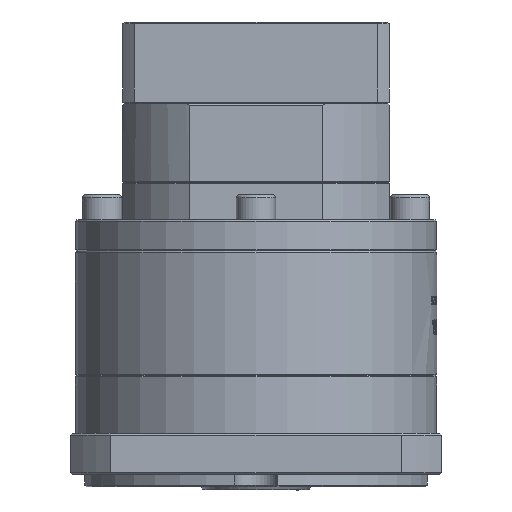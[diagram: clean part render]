
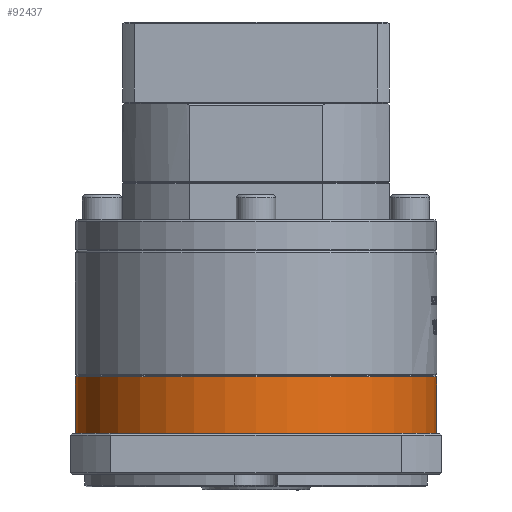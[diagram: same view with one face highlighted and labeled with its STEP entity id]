
A CAD part, front view. The second image highlights one B-rep face of the part: STEP entity #92437.
In plain terms, the highlighted cylindrical face has radius 57.5 mm (diameter 115 mm), a partial arc.
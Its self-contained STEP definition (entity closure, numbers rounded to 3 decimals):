
#3180 = DIRECTION ( 'NONE',  ( 0., 0., 1. ) ) ;
#5115 = EDGE_CURVE ( 'NONE', #85196, #7354, #52857, .T. ) ;
#7354 = VERTEX_POINT ( 'NONE', #17880 ) ;
#11471 = CARTESIAN_POINT ( 'NONE',  ( -77.774, 58.054, -89.168 ) ) ;
#17461 = CARTESIAN_POINT ( 'NONE',  ( -77.774, 58.054, -107.168 ) ) ;
#17880 = CARTESIAN_POINT ( 'NONE',  ( -20.274, 58.054, -89.168 ) ) ;
#18479 = EDGE_CURVE ( 'NONE', #56996, #7354, #48393, .T. ) ;
#19084 = CARTESIAN_POINT ( 'NONE',  ( -135.274, 58.054, -107.168 ) ) ;
#19649 = DIRECTION ( 'NONE',  ( -1., 0., 0. ) ) ;
#19875 = CARTESIAN_POINT ( 'NONE',  ( -135.274, 58.054, -89.168 ) ) ;
#25666 = DIRECTION ( 'NONE',  ( 1., 0., 0. ) ) ;
#27264 = DIRECTION ( 'NONE',  ( 1., 0., 0. ) ) ;
#27536 = ORIENTED_EDGE ( 'NONE', *, *, #71080, .F. ) ;
#31159 = VECTOR ( 'NONE', #3180, 1000. ) ;
#36313 = CARTESIAN_POINT ( 'NONE',  ( -135.274, 58.054, -107.168 ) ) ;
#48393 = CIRCLE ( 'NONE', #61564, 57.5 ) ;
#48519 = ORIENTED_EDGE ( 'NONE', *, *, #5115, .T. ) ;
#52148 = EDGE_CURVE ( 'NONE', #67240, #85196, #58489, .T. ) ;
#52857 = LINE ( 'NONE', #60124, #31159 ) ;
#52906 = DIRECTION ( 'NONE',  ( 0., 0., 1. ) ) ;
#56996 = VERTEX_POINT ( 'NONE', #19875 ) ;
#58489 = CIRCLE ( 'NONE', #71415, 57.5 ) ;
#60124 = CARTESIAN_POINT ( 'NONE',  ( -20.274, 58.054, -107.168 ) ) ;
#61564 = AXIS2_PLACEMENT_3D ( 'NONE', #11471, #68416, #19649 ) ;
#67240 = VERTEX_POINT ( 'NONE', #36313 ) ;
#67456 = CARTESIAN_POINT ( 'NONE',  ( -77.774, 58.054, -107.168 ) ) ;
#67971 = CYLINDRICAL_SURFACE ( 'NONE', #88009, 57.5 ) ;
#68416 = DIRECTION ( 'NONE',  ( 0., 0., 1. ) ) ;
#70806 = EDGE_LOOP ( 'NONE', ( #27536, #100648, #48519, #73464 ) ) ;
#71080 = EDGE_CURVE ( 'NONE', #67240, #56996, #85741, .T. ) ;
#71415 = AXIS2_PLACEMENT_3D ( 'NONE', #17461, #74414, #25666 ) ;
#72963 = VECTOR ( 'NONE', #52906, 1000. ) ;
#73464 = ORIENTED_EDGE ( 'NONE', *, *, #18479, .F. ) ;
#74414 = DIRECTION ( 'NONE',  ( 0., 0., 1. ) ) ;
#78200 = FACE_OUTER_BOUND ( 'NONE', #70806, .T. ) ;
#85196 = VERTEX_POINT ( 'NONE', #96158 ) ;
#85741 = LINE ( 'NONE', #19084, #72963 ) ;
#88009 = AXIS2_PLACEMENT_3D ( 'NONE', #67456, #100042, #27264 ) ;
#92437 = ADVANCED_FACE ( 'NONE', ( #78200 ), #67971, .T. ) ;
#96158 = CARTESIAN_POINT ( 'NONE',  ( -20.274, 58.054, -107.168 ) ) ;
#100042 = DIRECTION ( 'NONE',  ( 0., 0., 1. ) ) ;
#100648 = ORIENTED_EDGE ( 'NONE', *, *, #52148, .T. ) ;
